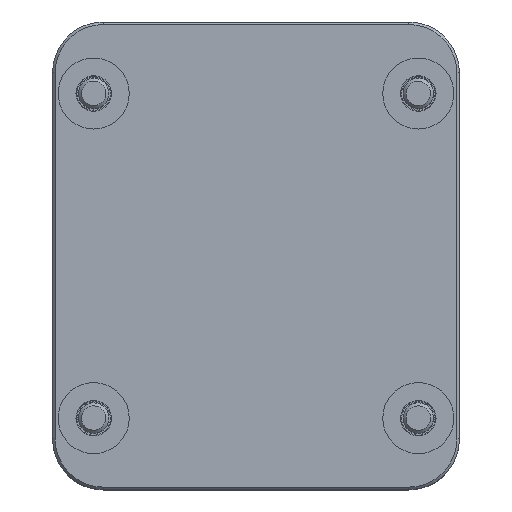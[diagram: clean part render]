
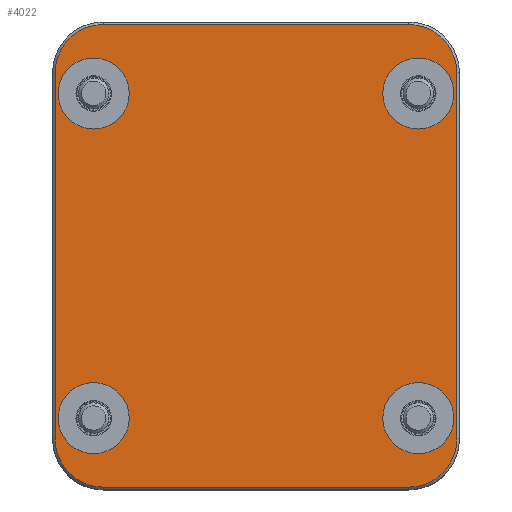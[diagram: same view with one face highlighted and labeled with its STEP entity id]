
A CAD part, top view. The second image highlights one B-rep face of the part: STEP entity #4022.
In plain terms, the highlighted planar face has unit normal (0, 0, 1).
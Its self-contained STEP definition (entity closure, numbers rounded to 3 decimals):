
#4022=ADVANCED_FACE('',(#6094,#6095,#6096,#6097,#6098),#5320,.T.);
#5320=PLANE('',#25423);
#6094=FACE_BOUND('',#6438,.T.);
#6095=FACE_BOUND('',#6439,.T.);
#6096=FACE_BOUND('',#6440,.T.);
#6097=FACE_BOUND('',#6441,.T.);
#6098=FACE_BOUND('',#6442,.T.);
#6438=EDGE_LOOP('',(#8348,#8349,#8350,#8351,#8352,#8353,#8354,#8355));
#6439=EDGE_LOOP('',(#8356));
#6440=EDGE_LOOP('',(#8357));
#6441=EDGE_LOOP('',(#8358));
#6442=EDGE_LOOP('',(#8359));
#7990=CIRCLE('',#25415,4.75);
#7991=CIRCLE('',#25416,4.75);
#7992=CIRCLE('',#25417,4.75);
#7993=CIRCLE('',#25418,4.75);
#7994=CIRCLE('',#25419,3.5);
#7995=CIRCLE('',#25420,3.5);
#7996=CIRCLE('',#25421,3.5);
#7997=CIRCLE('',#25422,3.5);
#8348=ORIENTED_EDGE('',*,*,#17218,.T.);
#8349=ORIENTED_EDGE('',*,*,#17219,.T.);
#8350=ORIENTED_EDGE('',*,*,#17220,.T.);
#8351=ORIENTED_EDGE('',*,*,#17221,.T.);
#8352=ORIENTED_EDGE('',*,*,#17222,.T.);
#8353=ORIENTED_EDGE('',*,*,#17223,.T.);
#8354=ORIENTED_EDGE('',*,*,#17224,.T.);
#8355=ORIENTED_EDGE('',*,*,#17225,.T.);
#8356=ORIENTED_EDGE('',*,*,#17226,.F.);
#8357=ORIENTED_EDGE('',*,*,#17227,.F.);
#8358=ORIENTED_EDGE('',*,*,#17228,.F.);
#8359=ORIENTED_EDGE('',*,*,#17229,.F.);
#14984=VERTEX_POINT('',#32020);
#14985=VERTEX_POINT('',#32021);
#14986=VERTEX_POINT('',#32023);
#14987=VERTEX_POINT('',#32025);
#14988=VERTEX_POINT('',#32027);
#14989=VERTEX_POINT('',#32029);
#14990=VERTEX_POINT('',#32031);
#14991=VERTEX_POINT('',#32033);
#14992=VERTEX_POINT('',#32036);
#14993=VERTEX_POINT('',#32038);
#14994=VERTEX_POINT('',#32040);
#14995=VERTEX_POINT('',#32042);
#17218=EDGE_CURVE('',#14984,#14985,#7990,.T.);
#17219=EDGE_CURVE('',#14985,#14986,#20492,.T.);
#17220=EDGE_CURVE('',#14986,#14987,#7991,.T.);
#17221=EDGE_CURVE('',#14987,#14988,#20493,.T.);
#17222=EDGE_CURVE('',#14988,#14989,#7992,.T.);
#17223=EDGE_CURVE('',#14989,#14990,#20494,.T.);
#17224=EDGE_CURVE('',#14990,#14991,#7993,.T.);
#17225=EDGE_CURVE('',#14991,#14984,#20495,.T.);
#17226=EDGE_CURVE('',#14992,#14992,#7994,.T.);
#17227=EDGE_CURVE('',#14993,#14993,#7995,.T.);
#17228=EDGE_CURVE('',#14994,#14994,#7996,.T.);
#17229=EDGE_CURVE('',#14995,#14995,#7997,.T.);
#20492=LINE('',#32022,#22768);
#20493=LINE('',#32026,#22769);
#20494=LINE('',#32030,#22770);
#20495=LINE('',#32034,#22771);
#22768=VECTOR('',#26784,1.);
#22769=VECTOR('',#26787,1.);
#22770=VECTOR('',#26790,1.);
#22771=VECTOR('',#26793,1.);
#25415=AXIS2_PLACEMENT_3D('',#32019,#26782,#26783);
#25416=AXIS2_PLACEMENT_3D('',#32024,#26785,#26786);
#25417=AXIS2_PLACEMENT_3D('',#32028,#26788,#26789);
#25418=AXIS2_PLACEMENT_3D('',#32032,#26791,#26792);
#25419=AXIS2_PLACEMENT_3D('',#32035,#26794,#26795);
#25420=AXIS2_PLACEMENT_3D('',#32037,#26796,#26797);
#25421=AXIS2_PLACEMENT_3D('',#32039,#26798,#26799);
#25422=AXIS2_PLACEMENT_3D('',#32041,#26800,#26801);
#25423=AXIS2_PLACEMENT_3D('',#32043,#26802,#26803);
#26782=DIRECTION('',(0.,0.,1.));
#26783=DIRECTION('',(1.,0.,0.));
#26784=DIRECTION('',(0.,-1.,0.));
#26785=DIRECTION('',(0.,0.,1.));
#26786=DIRECTION('',(1.,0.,0.));
#26787=DIRECTION('',(1.,0.,0.));
#26788=DIRECTION('',(0.,0.,1.));
#26789=DIRECTION('',(1.,0.,0.));
#26790=DIRECTION('',(0.,1.,0.));
#26791=DIRECTION('',(0.,0.,1.));
#26792=DIRECTION('',(1.,0.,0.));
#26793=DIRECTION('',(-1.,0.,0.));
#26794=DIRECTION('',(0.,0.,1.));
#26795=DIRECTION('',(1.,0.,0.));
#26796=DIRECTION('',(0.,0.,1.));
#26797=DIRECTION('',(1.,0.,0.));
#26798=DIRECTION('',(0.,0.,1.));
#26799=DIRECTION('',(1.,0.,0.));
#26800=DIRECTION('',(0.,0.,1.));
#26801=DIRECTION('',(1.,0.,0.));
#26802=DIRECTION('',(0.,0.,1.));
#26803=DIRECTION('',(1.,0.,0.));
#32019=CARTESIAN_POINT('',(348.969,32.76,-5.929));
#32020=CARTESIAN_POINT('',(348.969,37.51,-5.929));
#32021=CARTESIAN_POINT('',(344.219,32.76,-5.929));
#32022=CARTESIAN_POINT('',(344.219,14.71,-5.929));
#32023=CARTESIAN_POINT('',(344.219,-3.34,-5.929));
#32024=CARTESIAN_POINT('',(348.969,-3.34,-5.929));
#32025=CARTESIAN_POINT('',(348.969,-8.09,-5.929));
#32026=CARTESIAN_POINT('',(364.019,-8.09,-5.929));
#32027=CARTESIAN_POINT('',(379.069,-8.09,-5.929));
#32028=CARTESIAN_POINT('',(379.069,-3.34,-5.929));
#32029=CARTESIAN_POINT('',(383.819,-3.34,-5.929));
#32030=CARTESIAN_POINT('',(383.819,14.71,-5.929));
#32031=CARTESIAN_POINT('',(383.819,32.76,-5.929));
#32032=CARTESIAN_POINT('',(379.069,32.76,-5.929));
#32033=CARTESIAN_POINT('',(379.069,37.51,-5.929));
#32034=CARTESIAN_POINT('',(364.019,37.51,-5.929));
#32035=CARTESIAN_POINT('',(348.019,30.71,-5.929));
#32036=CARTESIAN_POINT('',(351.519,30.71,-5.929));
#32037=CARTESIAN_POINT('',(348.019,-1.29,-5.929));
#32038=CARTESIAN_POINT('',(351.519,-1.29,-5.929));
#32039=CARTESIAN_POINT('',(380.019,30.71,-5.929));
#32040=CARTESIAN_POINT('',(383.519,30.71,-5.929));
#32041=CARTESIAN_POINT('',(380.019,-1.29,-5.929));
#32042=CARTESIAN_POINT('',(383.519,-1.29,-5.929));
#32043=CARTESIAN_POINT('',(364.019,14.71,-5.929));
